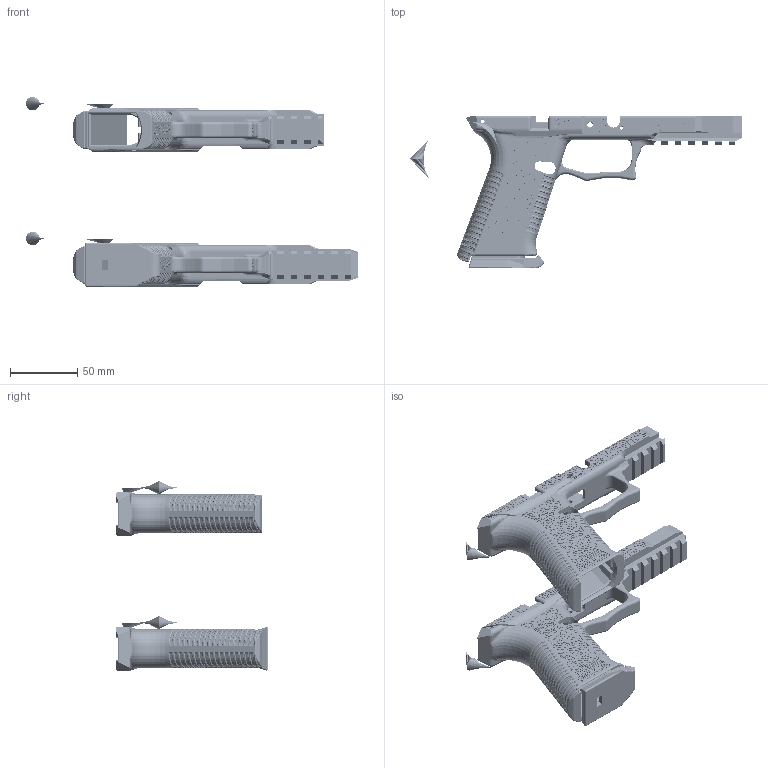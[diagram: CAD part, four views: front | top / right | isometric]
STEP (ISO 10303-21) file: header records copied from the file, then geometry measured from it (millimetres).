
FILE_DESCRIPTION(/* description */ (''),/* implementation_level */ '2;1');
FILE_NAME(/* name */ '/Users/dane/Documents/FNS40_DBMOD.step',/* time_stamp */ '2021-06-13T12:09:24-07:00',/* author */ (''),/* organization */ (''),/* preprocessor_version */ 'ST-DEVELOPER v18.1',/* originating_system */ 'Autodesk Translation Framework v10.9.0.1377',/* authorisation */ '');
FILE_SCHEMA (('AUTOMOTIVE_DESIGN { 1 0 10303 214 3 1 1 }'));
Products named in the file (1): FN40-DBMOD
Bounding box: 246.1 x 113.02 x 140.96 mm (x, y, z)
Volume: 232711.4 mm3; surface area: 124115 mm2
Topology: 5 solids, 13 shells, 17960 faces, 46889 edges, 30659 vertices
Faces by surface type: bspline 9575, plane 5527, cylinder 2423, torus 264, cone 121, sphere 50
Full cylindrical faces by diameter (mm): 2.5 x4, 3 x4, 4 x2, 4.1 x4, 5.6 x2
Entity records: 588427 total; most frequent: CARTESIAN_POINT 238973, ORIENTED_EDGE 93712, DIRECTION 48637, EDGE_CURVE 46856, VERTEX_POINT 30656, LINE 20755, VECTOR 20755, EDGE_LOOP 19754
